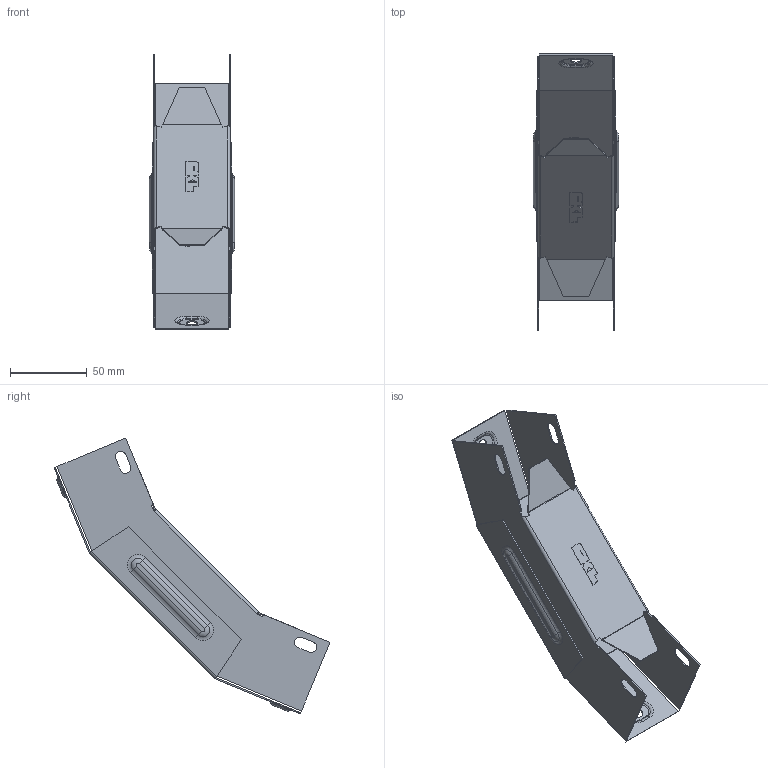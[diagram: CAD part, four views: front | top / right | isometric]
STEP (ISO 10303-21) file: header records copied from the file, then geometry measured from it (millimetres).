
FILE_DESCRIPTION (( 'STEP AP214' ), '1' );
FILE_NAME ('vo455050_捘.STEP', '2019-06-10T08:16:36', ( '砐錪賧瘔蠈錪 Windows' ), ( '' ), 'SwSTEP 2.0', 'SolidWorks 2018', '' );
FILE_SCHEMA (( 'AUTOMOTIVE_DESIGN' ));
Length unit declared in the file: millimetre
Products named in the file (1): vo455050_捘
Bounding box: 55.6 x 180.11 x 180.11 mm (x, y, z)
Volume: 35930.1 mm3; surface area: 91355.4 mm2
Topology: 2 solids, 2 shells, 396 faces, 1000 edges, 632 vertices
Faces by surface type: plane 230, cylinder 92, torus 48, bspline 26
Entity records: 12882 total; most frequent: CARTESIAN_POINT 3328, ORIENTED_EDGE 2000, DIRECTION 1913, EDGE_CURVE 1000, VECTOR 691, LINE 691, VERTEX_POINT 632, AXIS2_PLACEMENT_3D 611
